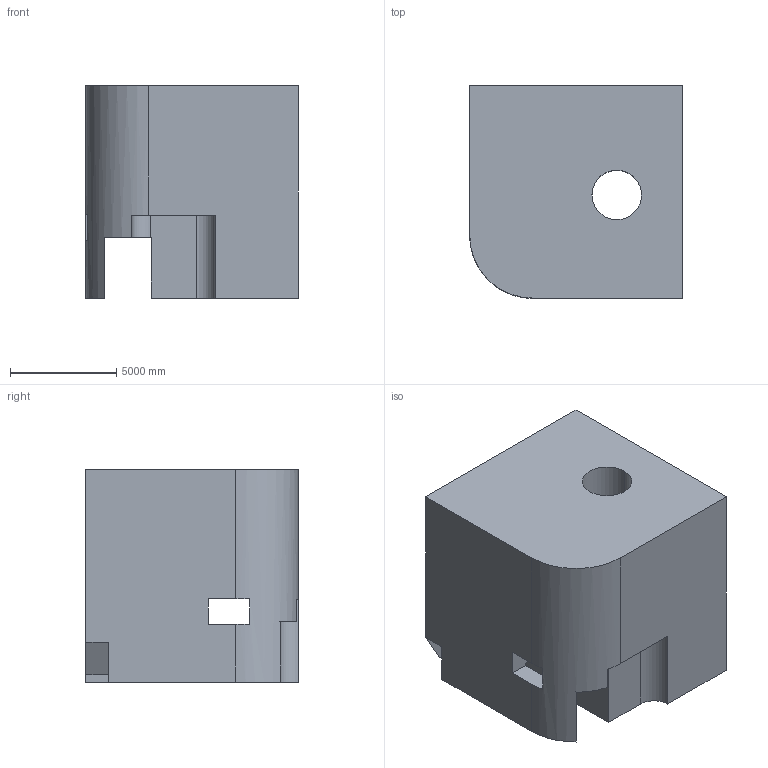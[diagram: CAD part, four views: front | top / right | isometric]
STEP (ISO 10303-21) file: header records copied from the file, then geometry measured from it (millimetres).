
FILE_DESCRIPTION (( 'STEP AP203' ), '1' );
FILE_NAME ('623.STEP', '2022-07-29T12:09:13', ( 'user' ), ( '' ), 'SwSTEP 2.0', 'SolidWorks 2021', '' );
FILE_SCHEMA (( 'CONFIG_CONTROL_DESIGN' ));
Length unit declared in the file: centimetre
Products named in the file (1): 623
Bounding box: 10000 x 10000 x 10000 mm (x, y, z)
Volume: 829355004285.1 mm3; surface area: 739932186 mm2
Topology: 1 solids, 1 shells, 29 faces, 93 edges, 62 vertices
Faces by surface type: plane 22, cylinder 7
Entity records: 1120 total; most frequent: ORIENTED_EDGE 186, CARTESIAN_POINT 185, DIRECTION 173, EDGE_CURVE 93, VECTOR 73, LINE 73, VERTEX_POINT 62, AXIS2_PLACEMENT_3D 50
